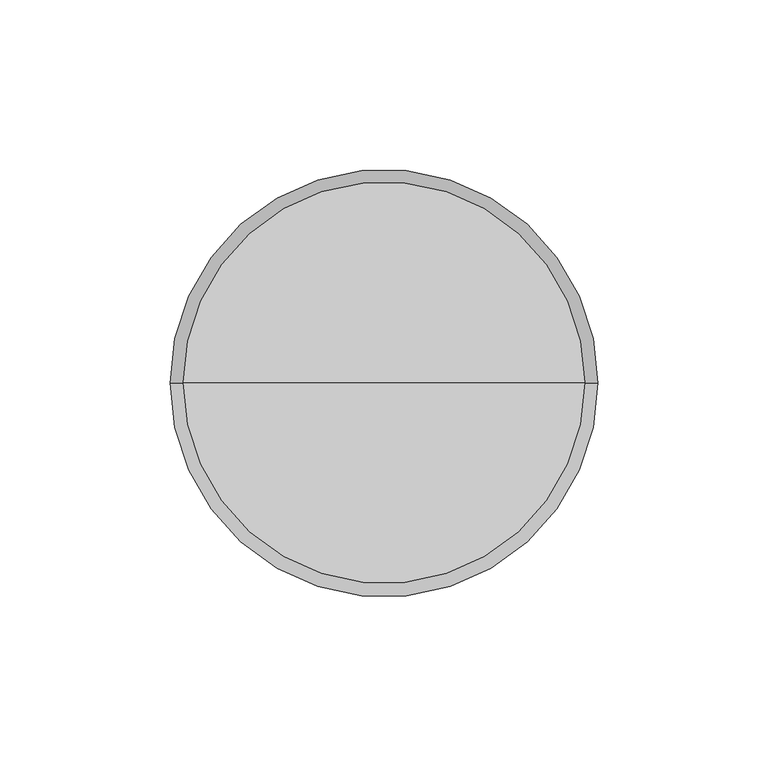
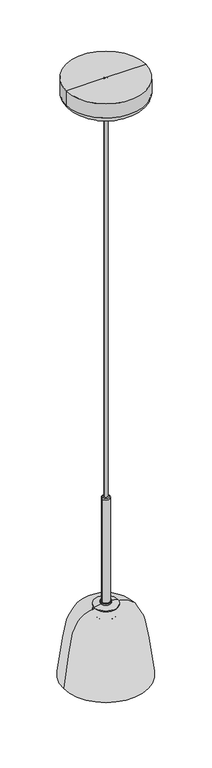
"""IFC4 building model written with IfcOpenShell, lengths in millimetres: light fixture geometry, Nuura - Asteea 1 - Ceiling Based : Nuura - Asteea 1 - Ceiling Based."""

import ifcopenshell
import ifcopenshell.guid

model = None  # the IFC model being written
_history = None  # IfcOwnerHistory: only IFC2X3 demands one
_inside = {}  # id of a spatial element -> (the spatial element, [elements in it])
_under = {}  # id of a project, library or spatial element -> (it, [spatial elements below it])
_declared = {}  # id of a project -> (the project, [libraries it declares])
_typed = {}  # id of a type object -> (the type object, [elements of that type])
_made_of = {}  # id of a material, layer set ... -> (it, [elements and type objects made of it])


def new_model(schema):
    """Start an empty IFC model of exactly this schema.

    Asked for "IFC4X3", IfcOpenShell would pick the latest addendum, in which some entities
    have other attributes; the version numbers below select the first issue.
    IFC2X3 requires an IfcOwnerHistory on every rooted entity: one is made here for all.
    """
    global model, _history
    if schema == "IFC4X3":
        model = ifcopenshell.file(schema_version=(4, 3, 0, 0))
    else:
        model = ifcopenshell.file(schema=schema)
    _inside.clear()
    _under.clear()
    _declared.clear()
    _typed.clear()
    _made_of.clear()
    _history = None
    if model.schema == "IFC2X3":
        org = make("IfcOrganization", Name="unknown")
        user = make(
            "IfcPersonAndOrganization",
            ThePerson=make("IfcPerson", FamilyName="unknown"),
            TheOrganization=org,
        )
        app = make(
            "IfcApplication",
            ApplicationDeveloper=org,
            Version="unknown",
            ApplicationFullName="unknown",
            ApplicationIdentifier="unknown",
        )
        _history = make(
            "IfcOwnerHistory",
            OwningUser=user,
            OwningApplication=app,
            ChangeAction="ADDED",
            CreationDate=0,
        )
    return model


def make(cls, **values):
    """One entity of the class cls with the attributes given. An attribute that is None is left unset."""
    return model.create_entity(
        cls, **{name: value for name, value in values.items() if value is not None}
    )


def rooted(cls, **values):
    """An entity with a GlobalId (a new one), such as an element, a storey or a relation."""
    return make(cls, GlobalId=ifcopenshell.guid.new(), OwnerHistory=_history, **values)


def si_unit(unit_type, name, prefix=None):
    """IfcSIUnit, for example si_unit("LENGTHUNIT", "METRE", prefix="MILLI")."""
    return make("IfcSIUnit", UnitType=unit_type, Prefix=prefix, Name=name)


def assignment(units):
    """IfcUnitAssignment: the units of a project."""
    return None if units is None else make("IfcUnitAssignment", Units=units)


def point(xyz):
    """IfcCartesianPoint."""
    return None if xyz is None else make("IfcCartesianPoint", Coordinates=xyz)


def direction(xyz):
    """IfcDirection."""
    return None if xyz is None else make("IfcDirection", DirectionRatios=xyz)


def frame(location, z_axis=None, x_axis=None):
    """IfcAxis2Placement3D, a coordinate frame: its origin and axes. An axis left out is left unset."""
    return make(
        "IfcAxis2Placement3D",
        Location=point(location),
        Axis=direction(z_axis),
        RefDirection=direction(x_axis),
    )


def frame_2d(location, x_axis=None):
    """IfcAxis2Placement2D, a coordinate frame in the plane: its origin and x axis."""
    return make(
        "IfcAxis2Placement2D", Location=point(location), RefDirection=direction(x_axis)
    )


def origin():
    """The frame at (0, 0, 0) with its axes left unset."""
    return frame((0.0, 0.0, 0.0))


def origin_2d():
    """The frame at (0, 0) in the plane with its x axis left unset."""
    return frame_2d((0.0, 0.0))


def place(relative_to, where):
    """IfcLocalPlacement: puts the frame where relative to a parent placement (None: the world)."""
    return make(
        "IfcLocalPlacement", PlacementRelTo=relative_to, RelativePlacement=where
    )


def context(
    kind, dimensions, precision=None, world=None, true_north=None, identifier=None
):
    """IfcGeometricRepresentationContext, for example the 3D "Model" context."""
    return make(
        "IfcGeometricRepresentationContext",
        ContextIdentifier=identifier,
        ContextType=kind,
        CoordinateSpaceDimension=dimensions,
        Precision=precision,
        WorldCoordinateSystem=world,
        TrueNorth=true_north,
    )


def project(units=None, contexts=None):
    """IfcProject with its units and contexts."""
    return rooted(
        "IfcProject",
        Name="project",
        RepresentationContexts=contexts,
        UnitsInContext=assignment(units),
    )


def spatial(cls, under=None, at=None, **own):
    """A site, building, storey or space (cls), placed at a placement, below another one or the project."""
    s = rooted(cls, ObjectPlacement=at, **own)
    if under is not None:
        _under.setdefault(under.id(), (under, []))[1].append(s)
    return s


def polyline(points):
    """IfcPolyline through the points."""
    return make("IfcPolyline", Points=[point(p) for p in points])


def circle_curve(where, radius):
    """IfcCircle in the frame where."""
    return make("IfcCircle", Position=where, Radius=radius)


def ellipse_curve(where, semi_axis1, semi_axis2):
    """IfcEllipse in the frame where."""
    return make(
        "IfcEllipse", Position=where, SemiAxis1=semi_axis1, SemiAxis2=semi_axis2
    )


def trimmed(basis, trim1, trim2, sense, master):
    """IfcTrimmedCurve: the piece of a basis curve between two trims."""
    return make(
        "IfcTrimmedCurve",
        BasisCurve=basis,
        Trim1=trim1,
        Trim2=trim2,
        SenseAgreement=sense,
        MasterRepresentation=master,
    )


def segment(curve, same_sense, transition):
    """IfcCompositeCurveSegment."""
    return make(
        "IfcCompositeCurveSegment",
        Transition=transition,
        SameSense=same_sense,
        ParentCurve=curve,
    )


def composite_curve(segments, self_intersect=None):
    """IfcCompositeCurve: segments joined end to end."""
    return make("IfcCompositeCurve", Segments=segments, SelfIntersect=self_intersect)


def outline(outer, holes=None, kind="AREA"):
    """IfcArbitraryClosedProfileDef: a profile drawn as a closed curve; with holes, ...WithVoids."""
    if holes is None:
        return make("IfcArbitraryClosedProfileDef", ProfileType=kind, OuterCurve=outer)
    return make(
        "IfcArbitraryProfileDefWithVoids",
        ProfileType=kind,
        OuterCurve=outer,
        InnerCurves=holes,
    )


def extrude(swept, where, along, depth):
    """IfcExtrudedAreaSolid: the profile swept, set in the frame where, extruded along a direction by depth."""
    return make(
        "IfcExtrudedAreaSolid",
        SweptArea=swept,
        Position=where,
        ExtrudedDirection=direction(along),
        Depth=depth,
    )


def shape(context_of_items, identifier, shape_type, items):
    """IfcShapeRepresentation: the items that make up one representation, for example the "Body"."""
    return make(
        "IfcShapeRepresentation",
        ContextOfItems=context_of_items,
        RepresentationIdentifier=identifier,
        RepresentationType=shape_type,
        Items=items,
    )


def source(mapping_origin, context_of_items, identifier, shape_type, items):
    """IfcRepresentationMap: a shape defined once, which mapped items show again and again."""
    return make(
        "IfcRepresentationMap",
        MappingOrigin=mapping_origin,
        MappedRepresentation=shape(context_of_items, identifier, shape_type, items),
    )


def transform(
    local_origin,
    x_axis=None,
    y_axis=None,
    z_axis=None,
    scale=None,
    scale2=None,
    scale3=None,
    uniform=True,
):
    """IfcCartesianTransformationOperator3D, or its non-uniform kind. x_axis, y_axis, z_axis: its Axis1, 2, 3."""
    if uniform:
        return make(
            "IfcCartesianTransformationOperator3D",
            Axis1=direction(x_axis),
            Axis2=direction(y_axis),
            LocalOrigin=point(local_origin),
            Scale=scale,
            Axis3=direction(z_axis),
        )
    return make(
        "IfcCartesianTransformationOperator3DnonUniform",
        Axis1=direction(x_axis),
        Axis2=direction(y_axis),
        LocalOrigin=point(local_origin),
        Scale=scale,
        Axis3=direction(z_axis),
        Scale2=scale2,
        Scale3=scale3,
    )


def mapped(mapping_source, mapping_target):
    """IfcMappedItem: shows the shape of a source again, moved by a transform."""
    return make(
        "IfcMappedItem", MappingSource=mapping_source, MappingTarget=mapping_target
    )


def made_of(thing, what):
    """Note that an element or type object is made of a material, layer set ...; save() writes the relation."""
    if what is not None:
        _made_of.setdefault(what.id(), (what, []))[1].append(thing)
    return thing


def element(
    cls,
    number,
    at=None,
    inside=None,
    cuts=None,
    type_object=None,
    material=None,
    context=None,
    identifier="Body",
    shape_type=None,
    held_by="IfcProductDefinitionShape",
    body=None,
    shapes=None,
    **own,
):
    """One element of the class cls, such as IfcWall. Its Tag is "e" and its number.

    at: its placement. inside: the storey or other place that contains it. cuts: it is an
    opening in that element (IfcRelVoidsElement). A single representation is given by context,
    identifier, shape_type and body (its items); several are given by shapes. held_by: the class
    of the entity that holds the representations. save() writes the other relations.
    """
    e = rooted(cls, Tag="e%d" % number, ObjectPlacement=at, **own)
    if body is not None:
        shapes = [shape(context, identifier, shape_type, body)]
    if shapes is not None:
        e.Representation = make(held_by, Representations=shapes)
    if inside is not None:
        _inside.setdefault(inside.id(), (inside, []))[1].append(e)
    if cuts is not None:
        rooted(
            "IfcRelVoidsElement", RelatingBuildingElement=cuts, RelatedOpeningElement=e
        )
    if type_object is not None:
        _typed.setdefault(type_object.id(), (type_object, []))[1].append(e)
    return made_of(e, material)


def aggregate(whole, parts):
    """IfcRelAggregates: a whole, such as a stair, and the parts it consists of."""
    return rooted("IfcRelAggregates", RelatingObject=whole, RelatedObjects=parts)


def save(model, path):
    """Write the relations noted so far, then the file.

    IfcRelAggregates (storeys below a building ...), IfcRelContainedInSpatialStructure (elements
    in a storey), IfcRelDefinesByType, IfcRelAssociatesMaterial and IfcRelDeclares: one each for
    every whole, place, type object, material and project.
    """
    for whole, parts in _under.values():
        aggregate(whole, parts)
    for where, things in _inside.values():
        rooted(
            "IfcRelContainedInSpatialStructure",
            RelatedElements=things,
            RelatingStructure=where,
        )
    for kind, things in _typed.values():
        rooted("IfcRelDefinesByType", RelatedObjects=things, RelatingType=kind)
    for what, things in _made_of.values():
        rooted("IfcRelAssociatesMaterial", RelatedObjects=things, RelatingMaterial=what)
    for by, libraries in _declared.values():
        rooted("IfcRelDeclares", RelatingContext=by, RelatedDefinitions=libraries)
    model.write(path)


def plane_surface(at):
    """IfcPlane: the flat surface through the origin of the frame at, square to its z axis."""
    return make("IfcPlane", Position=at)


def cylinder_surface(at, radius):
    """IfcCylindricalSurface: all points at the distance radius from the z axis of the frame at."""
    return make("IfcCylindricalSurface", Position=at, Radius=radius)


def revolved_surface(curve, axis_point, axis_direction):
    """IfcSurfaceOfRevolution: the curve turned about the line through axis_point along axis_direction."""
    return make(
        "IfcSurfaceOfRevolution",
        SweptCurve=make("IfcArbitraryOpenProfileDef", ProfileType="CURVE", Curve=curve),
        AxisPosition=make("IfcAxis1Placement", Location=point(axis_point), Axis=direction(axis_direction)),
    )


def spline_curve(degree, points, multiplicities, knots, weights=None):
    """IfcBSplineCurveWithKnots; with weights, IfcRationalBSplineCurveWithKnots."""
    own = dict(
        Degree=degree,
        ControlPointsList=[point(p) for p in points],
        CurveForm="UNSPECIFIED",
        ClosedCurve=False,
        SelfIntersect=False,
        KnotMultiplicities=multiplicities,
        Knots=knots,
        KnotSpec="UNSPECIFIED",
    )
    if weights is None:
        return make("IfcBSplineCurveWithKnots", **own)
    return make("IfcRationalBSplineCurveWithKnots", WeightsData=weights, **own)


def advanced_brep(points, edges, surfaces, faces):
    """IfcAdvancedBrep: a solid bounded by faces that lie on surfaces and meet in shared edges.

    An edge is (start, end): straight between two places in points (the first is 0);
    or (start, end, curve); or (start, end, curve, False) where it runs against its curve.
    A face is (place in surfaces, loops), or (place, loops, False) where it looks against
    its surface's normal. A loop lists edges by number (the first is 1), with a minus sign
    where the edge is run from its end to its start. The first loop is the outer one.
    """
    corners = [point(p) for p in points]
    vertices = [make("IfcVertexPoint", VertexGeometry=c) for c in corners]
    made = []
    for start, end, *more in edges:
        made.append(
            make(
                "IfcEdgeCurve",
                EdgeStart=vertices[start],
                EdgeEnd=vertices[end],
                EdgeGeometry=more[0] if more else make("IfcPolyline", Points=[corners[start], corners[end]]),
                SameSense=more[1] if len(more) > 1 else True,
            )
        )
    hull = []
    for where, loops, *sense in faces:
        bounds = []
        for j, loop in enumerate(loops):
            ring = [make("IfcOrientedEdge", EdgeElement=made[abs(k) - 1], Orientation=k > 0) for k in loop]
            bounds.append(
                make(
                    "IfcFaceOuterBound" if j == 0 else "IfcFaceBound",
                    Bound=make("IfcEdgeLoop", EdgeList=ring),
                    Orientation=True,
                )
            )
        hull.append(make("IfcAdvancedFace", Bounds=bounds, FaceSurface=surfaces[where], SameSense=sense[0] if sense else True))
    return make("IfcAdvancedBrep", Outer=make("IfcClosedShell", CfsFaces=hull))


def light_fixture_2cd5fa0e(model_context):
    return source(origin(), model_context, "Body", "SolidModel", [
        advanced_brep(
        [(5.8953033, 0.0, 1501.5199994), (-5.8953033, 0.0, 1501.5199994), (-5.8953033, 0.0, 1598.073087), (5.8953033, 0.0, 1598.073087), (0.0, 0.0, 1501.5199994), (0.0, 0.0, 1598.073087)],
        [
            (0, 1, circle_curve(frame((0.0, 0.0, 1501.5199994), z_axis=(0.0, 0.0, 1.0), x_axis=(-1.0, 0.0, 0.0)), 5.8953033)),
            (1, 2),
            (2, 3, circle_curve(frame((0.0, 0.0, 1598.073087), z_axis=(0.0, 0.0, -1.0), x_axis=(-1.0, 0.0, 0.0)), 5.8953033)),
            (3, 0),
            (1, 0, circle_curve(frame((0.0, 0.0, 1501.5199994), z_axis=(0.0, 0.0, 1.0), x_axis=(-1.0, 0.0, 0.0)), 5.8953033)),
            (3, 2, circle_curve(frame((0.0, 0.0, 1598.073087), z_axis=(0.0, 0.0, -1.0), x_axis=(-1.0, 0.0, 0.0)), 5.8953033)),
            (4, 1),
            (0, 4),
            (2, 5),
            (5, 3),
        ],
        [
            cylinder_surface(frame((0.0, 0.0, 1615.5132457), z_axis=(0.0, 0.0, -1.0), x_axis=(-1.0, 0.0, 0.0)), 5.8953033),
            plane_surface(frame((0.0, 0.0, 1501.5199994), z_axis=(0.0, 0.0, -1.0), x_axis=(-1.0, 0.0, 0.0))),
            plane_surface(frame((0.0, 0.0, 1598.073087), z_axis=(0.0, 0.0, 1.0), x_axis=(-1.0, 0.0, 0.0))),
        ],
        [
            (0, [[1, 2, 3, 4]]),
            (0, [[5, -4, 6, -2]]),
            (1, [[7, -1, 8]]),
            (1, [[-8, -5, -7]]),
            (2, [[-3, 9, 10]]),
            (2, [[-6, -10, -9]]),
        ],
    ),
        advanced_brep(
        [(4.35, 0.0, 1784.4), (-4.35, 0.0, 1784.4), (0.0, 0.0, 1784.4), (5.85, 0.0, 1782.9), (-5.85, 0.0, 1782.9), (5.85, 0.0, 1622.1166168), (-5.85, 0.0, 1622.1166168), (6.8203882, 0.0, 1622.1166168), (-6.8203882, 0.0, 1622.1166168), (7.3491479, 0.0, 1621.5878572), (-7.3491479, 0.0, 1621.5878572), (7.3491479, 0.0, 1619.5187742), (-7.3491479, 0.0, 1619.5187742), (17.4825438, 0.0, 1617.5964427), (-17.4825438, 0.0, 1617.5964427), (17.2117822, 0.0, 1616.6141243), (-17.2117822, 0.0, 1616.6141243), (0.0, 0.0, 1616.6141243)],
        [
            (0, 1, circle_curve(frame((0.0, 0.0, 1784.4), z_axis=(0.0, 0.0, 1.0), x_axis=(-1.0, 0.0, 0.0)), 4.35)),
            (1, 2),
            (2, 0),
            (1, 0, circle_curve(frame((0.0, 0.0, 1784.4), z_axis=(0.0, 0.0, 1.0), x_axis=(-1.0, 0.0, 0.0)), 4.35)),
            (3, 4, circle_curve(frame((0.0, 0.0, 1782.9), z_axis=(0.0, 0.0, 1.0), x_axis=(-1.0, 0.0, 0.0)), 5.85)),
            (4, 1, circle_curve(frame((-4.35, 0.0, 1782.9), z_axis=(0.0, 1.0, 0.0), x_axis=(1.0, 0.0, 0.0)), 1.5)),
            (0, 3, circle_curve(frame((4.35, 0.0, 1782.9), z_axis=(0.0, 1.0, 0.0), x_axis=(-1.0, 0.0, 0.0)), 1.5)),
            (4, 3, circle_curve(frame((0.0, 0.0, 1782.9), z_axis=(0.0, 0.0, 1.0), x_axis=(-1.0, 0.0, 0.0)), 5.85)),
            (5, 6, circle_curve(frame((0.0, 0.0, 1622.1166168), z_axis=(0.0, 0.0, 1.0), x_axis=(-1.0, 0.0, 0.0)), 5.85)),
            (6, 4),
            (3, 5),
            (6, 5, circle_curve(frame((0.0, 0.0, 1622.1166168), z_axis=(0.0, 0.0, 1.0), x_axis=(-1.0, 0.0, 0.0)), 5.85)),
            (7, 8, circle_curve(frame((0.0, 0.0, 1622.1166168), z_axis=(0.0, 0.0, 1.0), x_axis=(-1.0, 0.0, 0.0)), 6.8203882)),
            (8, 6),
            (5, 7),
            (8, 7, circle_curve(frame((0.0, 0.0, 1622.1166168), z_axis=(0.0, 0.0, 1.0), x_axis=(-1.0, 0.0, 0.0)), 6.8203882)),
            (9, 10, circle_curve(frame((0.0, 0.0, 1621.5878572), z_axis=(0.0, 0.0, 1.0), x_axis=(-1.0, 0.0, 0.0)), 7.3491479)),
            (10, 8, circle_curve(frame((-6.8203882, 0.0, 1621.5878572), z_axis=(0.0, 1.0, 0.0), x_axis=(1.0, 0.0, 0.0)), 0.5287596)),
            (7, 9, circle_curve(frame((6.8203882, 0.0, 1621.5878572), z_axis=(0.0, 1.0, 0.0), x_axis=(-1.0, 0.0, 0.0)), 0.5287596)),
            (10, 9, circle_curve(frame((0.0, 0.0, 1621.5878572), z_axis=(0.0, 0.0, 1.0), x_axis=(-1.0, 0.0, 0.0)), 7.3491479)),
            (11, 12, circle_curve(frame((0.0, 0.0, 1619.5187742), z_axis=(0.0, 0.0, 1.0), x_axis=(-1.0, 0.0, 0.0)), 7.3491479)),
            (12, 10),
            (9, 11),
            (12, 11, circle_curve(frame((0.0, 0.0, 1619.5187742), z_axis=(0.0, 0.0, 1.0), x_axis=(-1.0, 0.0, 0.0)), 7.3491479)),
            (13, 14, circle_curve(frame((0.0, 0.0, 1617.5964427), z_axis=(0.0, 0.0, 1.0), x_axis=(-1.0, 0.0, 0.0)), 17.4825438)),
            (14, 12, circle_curve(frame((-0.6458892, 0.0, 1556.5133503), z_axis=(0.0, 1.0, 0.0), x_axis=(1.0, 0.0, 0.0)), 63.3610063)),
            (11, 13, circle_curve(frame((0.6458892, 0.0, 1556.5133503), z_axis=(0.0, 1.0, 0.0), x_axis=(-1.0, 0.0, 0.0)), 63.3610063)),
            (14, 13, circle_curve(frame((0.0, 0.0, 1617.5964427), z_axis=(0.0, 0.0, 1.0), x_axis=(-1.0, 0.0, 0.0)), 17.4825438)),
            (15, 16, circle_curve(frame((0.0, 0.0, 1616.6141243), z_axis=(0.0, 0.0, 1.0), x_axis=(-1.0, 0.0, 0.0)), 17.2117822)),
            (16, 14),
            (13, 15),
            (16, 15, circle_curve(frame((0.0, 0.0, 1616.6141243), z_axis=(0.0, 0.0, 1.0), x_axis=(-1.0, 0.0, 0.0)), 17.2117822)),
            (17, 16),
            (15, 17),
        ],
        [
            plane_surface(frame((0.0, 0.0, 1784.4), z_axis=(0.0, 0.0, 1.0), x_axis=(-1.0, 0.0, 0.0))),
            revolved_surface(trimmed(ellipse_curve(frame((-4.35, 0.0, 1782.9), z_axis=(0.0, -1.0, 0.0), x_axis=(1.0, 0.0, 0.0)), 1.5, 1.5), [point((-4.35, 0.0, 1784.4))], [point((-5.85, 0.0, 1782.9))], True, "CARTESIAN"), (0.0, 0.0, 1837.4), (0.0, 0.0, -1.0)),
            cylinder_surface(frame((0.0, 0.0, 1837.4), z_axis=(0.0, 0.0, -1.0), x_axis=(-1.0, 0.0, 0.0)), 5.85),
            plane_surface(frame((0.0, 0.0, 1622.1166168), z_axis=(0.0, 0.0, 1.0), x_axis=(-1.0, 0.0, 0.0))),
            revolved_surface(trimmed(ellipse_curve(frame((-6.8203882, 0.0, 1621.5878572), z_axis=(0.0, -1.0, 0.0), x_axis=(1.0, 0.0, 0.0)), 0.5287596, 0.5287596), [point((-6.8203882, 0.0, 1622.1166168))], [point((-7.3491479, 0.0, 1621.5878572))], True, "CARTESIAN"), (0.0, 0.0, 1837.4), (0.0, 0.0, -1.0)),
            cylinder_surface(frame((0.0, 0.0, 1837.4), z_axis=(0.0, 0.0, -1.0), x_axis=(-1.0, 0.0, 0.0)), 7.3491479),
            revolved_surface(trimmed(ellipse_curve(frame((-0.6458892, 0.0, 1556.5133503), z_axis=(0.0, -1.0, 0.0), x_axis=(1.0, 0.0, 0.0)), 63.3610063, 63.3610063), [point((-7.3491479, 0.0, 1619.5187742))], [point((-17.4825438, 0.0, 1617.5964427))], True, "CARTESIAN"), (0.0, 0.0, 1837.4), (0.0, 0.0, -1.0)),
            revolved_surface(polyline([(-17.4825438, 0.0, 1617.5964427), (-17.2117822, 0.0, 1616.6141243)]), (0.0, 0.0, 1837.4), (0.0, 0.0, -1.0)),
            plane_surface(frame((0.0, 0.0, 1616.6141243), z_axis=(0.0, 0.0, -1.0), x_axis=(-1.0, 0.0, 0.0))),
        ],
        [
            (0, [[1, 2, 3]]),
            (0, [[4, -3, -2]]),
            (1, [[5, 6, -1, 7]]),
            (1, [[8, -7, -4, -6]]),
            (2, [[9, 10, -5, 11]]),
            (2, [[12, -11, -8, -10]]),
            (3, [[13, 14, -9, 15]]),
            (3, [[16, -15, -12, -14]]),
            (4, [[17, 18, -13, 19]]),
            (4, [[20, -19, -16, -18]]),
            (5, [[21, 22, -17, 23]]),
            (5, [[24, -23, -20, -22]]),
            (6, [[25, 26, -21, 27]]),
            (6, [[28, -27, -24, -26]]),
            (7, [[29, 30, -25, 31]]),
            (7, [[32, -31, -28, -30]]),
            (8, [[33, -29, 34]]),
            (8, [[-34, -32, -33]]),
        ],
    ),
        advanced_brep(
        [(17.5, 0.0, 1609.073087), (-17.5, 0.0, 1609.073087), (-17.5, 0.0, 1611.5730871), (17.5, 0.0, 1611.5730871), (6.5, 0.0, 1598.073087), (-6.5, 0.0, 1598.073087), (3.9999999, 0.0, 1598.073087), (-3.9999999, 0.0, 1598.073087), (3.9999999, 0.0, 1588.0199994), (-3.9999999, 0.0, 1588.0199994), (-1e-07, 0.0, 1588.0199994), (-1e-07, 0.0, 1611.5730871)],
        [
            (0, 1, circle_curve(frame((0.0, 0.0, 1609.073087), z_axis=(0.0, 0.0, 1.0), x_axis=(-1.0, 0.0, 0.0)), 17.5)),
            (1, 2),
            (2, 3, circle_curve(frame((0.0, 0.0, 1611.5730871), z_axis=(0.0, 0.0, -1.0), x_axis=(-1.0, 0.0, 0.0)), 17.5)),
            (3, 0),
            (1, 0, circle_curve(frame((0.0, 0.0, 1609.073087), z_axis=(0.0, 0.0, 1.0), x_axis=(-1.0, 0.0, 0.0)), 17.5)),
            (3, 2, circle_curve(frame((0.0, 0.0, 1611.5730871), z_axis=(0.0, 0.0, -1.0), x_axis=(-1.0, 0.0, 0.0)), 17.5)),
            (4, 5, circle_curve(frame((0.0, 0.0, 1598.073087), z_axis=(0.0, 0.0, 1.0), x_axis=(-1.0, 0.0, 0.0)), 6.5)),
            (5, 1, circle_curve(frame((-6.5, 0.0, 1609.073087), z_axis=(0.0, 1.0, 0.0), x_axis=(1.0, 0.0, 0.0)), 11.0)),
            (0, 4, circle_curve(frame((6.5, 0.0, 1609.073087), z_axis=(0.0, 1.0, 0.0), x_axis=(-1.0, 0.0, 0.0)), 11.0)),
            (5, 4, circle_curve(frame((0.0, 0.0, 1598.073087), z_axis=(0.0, 0.0, 1.0), x_axis=(-1.0, 0.0, 0.0)), 6.5)),
            (6, 7, circle_curve(frame((0.0, 0.0, 1598.073087), z_axis=(0.0, 0.0, 1.0), x_axis=(-1.0, 0.0, 0.0)), 3.9999999)),
            (7, 5),
            (4, 6),
            (7, 6, circle_curve(frame((0.0, 0.0, 1598.073087), z_axis=(0.0, 0.0, 1.0), x_axis=(-1.0, 0.0, 0.0)), 3.9999999)),
            (8, 9, circle_curve(frame((0.0, 0.0, 1588.0199994), z_axis=(0.0, 0.0, 1.0), x_axis=(-1.0, 0.0, 0.0)), 3.9999999)),
            (9, 7),
            (6, 8),
            (9, 8, circle_curve(frame((0.0, 0.0, 1588.0199994), z_axis=(0.0, 0.0, 1.0), x_axis=(-1.0, 0.0, 0.0)), 3.9999999)),
            (10, 9),
            (8, 10),
            (2, 11),
            (11, 3),
        ],
        [
            cylinder_surface(frame((0.0, 0.0, 1837.4), z_axis=(0.0, 0.0, -1.0), x_axis=(-1.0, 0.0, 0.0)), 17.5),
            revolved_surface(trimmed(ellipse_curve(frame((-6.5, 0.0, 1609.073087), z_axis=(0.0, -1.0, 0.0), x_axis=(1.0, 0.0, 0.0)), 11.0, 11.0), [point((-17.5, 0.0, 1609.073087))], [point((-6.5, 0.0, 1598.073087))], True, "CARTESIAN"), (0.0, 0.0, 1837.4), (0.0, 0.0, -1.0)),
            plane_surface(frame((0.0, 0.0, 1598.073087), z_axis=(0.0, 0.0, -1.0), x_axis=(-1.0, 0.0, 0.0))),
            cylinder_surface(frame((0.0, 0.0, 1837.4), z_axis=(0.0, 0.0, -1.0), x_axis=(-1.0, 0.0, 0.0)), 3.9999999),
            plane_surface(frame((0.0, 0.0, 1588.0199994), z_axis=(0.0, 0.0, -1.0), x_axis=(-1.0, 0.0, 0.0))),
            plane_surface(frame((0.0, 0.0, 1611.5730871), z_axis=(0.0, 0.0, 1.0), x_axis=(-1.0, 0.0, 0.0))),
        ],
        [
            (0, [[1, 2, 3, 4]]),
            (0, [[5, -4, 6, -2]]),
            (1, [[7, 8, -1, 9]]),
            (1, [[10, -9, -5, -8]]),
            (2, [[11, 12, -7, 13]]),
            (2, [[14, -13, -10, -12]]),
            (3, [[15, 16, -11, 17]]),
            (3, [[18, -17, -14, -16]]),
            (4, [[19, -15, 20]]),
            (4, [[-20, -18, -19]]),
            (5, [[-3, 21, 22]]),
            (5, [[-6, -22, -21]]),
        ],
    ),
        advanced_brep(
        [(2.8650938, 0.0, 1517.4873599), (-2.8650938, 0.0, 1517.4873599), (0.0, 0.0, 1517.4873599), (4.8499999, 0.0, 1516.5199994), (-4.8499999, 0.0, 1516.5199994), (4.8499999, 0.0, 1511.5199994), (-4.8499999, 0.0, 1511.5199994), (4.8499999, 0.0, 1501.5199994), (-4.8499999, 0.0, 1501.5199994), (22.4999999, 0.0, 1501.5199994), (-22.4999999, 0.0, 1501.5199994), (22.4999999, 0.0, 1498.4089388), (-22.4999999, 0.0, 1498.4089388), (22.1540938, 0.0, 1496.5815336), (-22.1540938, 0.0, 1496.5815336), (0.0, 0.0, 1481.4795687)],
        [
            (0, 1, circle_curve(frame((0.0, 0.0, 1517.4873599), z_axis=(0.0, 0.0, 1.0), x_axis=(-1.0, 0.0, 0.0)), 2.8650938)),
            (1, 2),
            (2, 0),
            (1, 0, circle_curve(frame((0.0, 0.0, 1517.4873599), z_axis=(0.0, 0.0, 1.0), x_axis=(-1.0, 0.0, 0.0)), 2.8650938)),
            (3, 4, circle_curve(frame((0.0, 0.0, 1516.5199994), z_axis=(0.0, 0.0, 1.0), x_axis=(-1.0, 0.0, 0.0)), 4.8499999)),
            (4, 1),
            (0, 3),
            (4, 3, circle_curve(frame((0.0, 0.0, 1516.5199994), z_axis=(0.0, 0.0, 1.0), x_axis=(-1.0, 0.0, 0.0)), 4.8499999)),
            (5, 6, circle_curve(frame((0.0, 0.0, 1511.5199994), z_axis=(0.0, 0.0, 1.0), x_axis=(-1.0, 0.0, 0.0)), 4.8499999)),
            (6, 4),
            (3, 5),
            (6, 5, circle_curve(frame((0.0, 0.0, 1511.5199994), z_axis=(0.0, 0.0, 1.0), x_axis=(-1.0, 0.0, 0.0)), 4.8499999)),
            (7, 8, circle_curve(frame((0.0, 0.0, 1501.5199994), z_axis=(0.0, 0.0, 1.0), x_axis=(-1.0, 0.0, 0.0)), 4.8499999)),
            (8, 6),
            (5, 7),
            (8, 7, circle_curve(frame((0.0, 0.0, 1501.5199994), z_axis=(0.0, 0.0, 1.0), x_axis=(-1.0, 0.0, 0.0)), 4.8499999)),
            (9, 10, circle_curve(frame((0.0, 0.0, 1501.5199994), z_axis=(0.0, 0.0, 1.0), x_axis=(-1.0, 0.0, 0.0)), 22.4999999)),
            (10, 8),
            (7, 9),
            (10, 9, circle_curve(frame((0.0, 0.0, 1501.5199994), z_axis=(0.0, 0.0, 1.0), x_axis=(-1.0, 0.0, 0.0)), 22.4999999)),
            (11, 12, circle_curve(frame((0.0, 0.0, 1498.4089388), z_axis=(0.0, 0.0, 1.0), x_axis=(-1.0, 0.0, 0.0)), 22.4999999)),
            (12, 10),
            (9, 11),
            (12, 11, circle_curve(frame((0.0, 0.0, 1498.4089388), z_axis=(0.0, 0.0, 1.0), x_axis=(-1.0, 0.0, 0.0)), 22.4999999)),
            (13, 14, circle_curve(frame((0.0, 0.0, 1496.5815336), z_axis=(0.0, 0.0, 1.0), x_axis=(-1.0, 0.0, 0.0)), 22.1540938)),
            (14, 12, circle_curve(frame((-17.4999999, 0.0, 1498.4089388), z_axis=(0.0, 1.0, 0.0), x_axis=(1.0, 0.0, 0.0)), 5.0)),
            (11, 13, circle_curve(frame((17.4999999, 0.0, 1498.4089388), z_axis=(0.0, 1.0, 0.0), x_axis=(-1.0, 0.0, 0.0)), 5.0)),
            (14, 13, circle_curve(frame((0.0, 0.0, 1496.5815336), z_axis=(0.0, 0.0, 1.0), x_axis=(-1.0, 0.0, 0.0)), 22.1540938)),
            (15, 14, circle_curve(frame((1e-07, 0.0, 1505.2802207), z_axis=(0.0, 1.0, 0.0), x_axis=(1.0, 0.0, 0.0)), 23.800652)),
            (13, 15, circle_curve(frame((-1e-07, 0.0, 1505.2802207), z_axis=(0.0, 1.0, 0.0), x_axis=(-1.0, 0.0, 0.0)), 23.800652)),
        ],
        [
            plane_surface(frame((0.0, 0.0, 1517.4873599), z_axis=(0.0, 0.0, 1.0), x_axis=(-1.0, 0.0, 0.0))),
            revolved_surface(polyline([(-2.8650938, 0.0, 1517.4873599), (-4.8499999, 0.0, 1516.5199994)]), (0.0, 0.0, 1837.4), (0.0, 0.0, -1.0)),
            cylinder_surface(frame((0.0, 0.0, 1837.4), z_axis=(0.0, 0.0, -1.0), x_axis=(-1.0, 0.0, 0.0)), 4.8499999),
            plane_surface(frame((0.0, 0.0, 1501.5199994), z_axis=(0.0, 0.0, 1.0), x_axis=(-1.0, 0.0, 0.0))),
            cylinder_surface(frame((0.0, 0.0, 1837.4), z_axis=(0.0, 0.0, -1.0), x_axis=(-1.0, 0.0, 0.0)), 22.4999999),
            revolved_surface(trimmed(ellipse_curve(frame((-17.4999999, 0.0, 1498.4089388), z_axis=(0.0, -1.0, 0.0), x_axis=(1.0, 0.0, 0.0)), 5.0, 5.0), [point((-22.4999999, 0.0, 1498.4089388))], [point((-22.1540938, 0.0, 1496.5815336))], True, "CARTESIAN"), (0.0, 0.0, 1837.4), (0.0, 0.0, -1.0)),
            revolved_surface(trimmed(ellipse_curve(frame((1e-07, 0.0, 1505.2802207), z_axis=(0.0, -1.0, 0.0), x_axis=(1.0, 0.0, 0.0)), 23.800652, 23.800652), [point((-22.1540938, 0.0, 1496.5815336))], [point((0.0, 0.0, 1481.4795687))], True, "CARTESIAN"), (0.0, 0.0, 1837.4), (0.0, 0.0, -1.0)),
        ],
        [
            (0, [[1, 2, 3]]),
            (0, [[4, -3, -2]]),
            (1, [[5, 6, -1, 7]]),
            (1, [[8, -7, -4, -6]]),
            (2, [[9, 10, -5, 11]]),
            (2, [[12, -11, -8, -10]]),
            (2, [[13, 14, -9, 15]]),
            (2, [[16, -15, -12, -14]]),
            (3, [[17, 18, -13, 19]]),
            (3, [[20, -19, -16, -18]]),
            (4, [[21, 22, -17, 23]]),
            (4, [[24, -23, -20, -22]]),
            (5, [[25, 26, -21, 27]]),
            (5, [[28, -27, -24, -26]]),
            (6, [[29, -25, 30]]),
            (6, [[-30, -28, -29]]),
        ],
    ),
        advanced_brep(
        [(7.0, 0.0, 2408.4), (-7.0, 0.0, 2408.4), (-51.0, 0.0, 2408.4), (51.0, 0.0, 2408.4), (7.0, 0.0, 2401.4), (-7.0, 0.0, 2401.4), (6.0, 0.0, 2400.4), (-6.0, 0.0, 2400.4), (0.0, 0.0, 2400.4), (59.0, 0.0, 2438.4), (-59.0, 0.0, 2438.4), (0.0, 0.0, 2438.4), (59.0, 0.0, 2416.4), (-59.0, 0.0, 2416.4)],
        [
            (0, 1, circle_curve(frame((0.0, 0.0, 2408.4), z_axis=(0.0, 0.0, 1.0), x_axis=(-1.0, 0.0, 0.0)), 7.0)),
            (1, 2),
            (2, 3, circle_curve(frame((0.0, 0.0, 2408.4), z_axis=(0.0, 0.0, -1.0), x_axis=(-1.0, 0.0, 0.0)), 51.0)),
            (3, 0),
            (1, 0, circle_curve(frame((0.0, 0.0, 2408.4), z_axis=(0.0, 0.0, 1.0), x_axis=(-1.0, 0.0, 0.0)), 7.0)),
            (3, 2, circle_curve(frame((0.0, 0.0, 2408.4), z_axis=(0.0, 0.0, -1.0), x_axis=(-1.0, 0.0, 0.0)), 51.0)),
            (4, 5, circle_curve(frame((0.0, 0.0, 2401.4), z_axis=(0.0, 0.0, 1.0), x_axis=(-1.0, 0.0, 0.0)), 7.0)),
            (5, 1),
            (0, 4),
            (5, 4, circle_curve(frame((0.0, 0.0, 2401.4), z_axis=(0.0, 0.0, 1.0), x_axis=(-1.0, 0.0, 0.0)), 7.0)),
            (6, 7, circle_curve(frame((0.0, 0.0, 2400.4), z_axis=(0.0, 0.0, 1.0), x_axis=(-1.0, 0.0, 0.0)), 6.0)),
            (7, 5, circle_curve(frame((-6.0, 0.0, 2401.4), z_axis=(0.0, 1.0, 0.0), x_axis=(1.0, 0.0, 0.0)), 1.0)),
            (4, 6, circle_curve(frame((6.0, 0.0, 2401.4), z_axis=(0.0, 1.0, 0.0), x_axis=(-1.0, 0.0, 0.0)), 1.0)),
            (7, 6, circle_curve(frame((0.0, 0.0, 2400.4), z_axis=(0.0, 0.0, 1.0), x_axis=(-1.0, 0.0, 0.0)), 6.0)),
            (8, 7),
            (6, 8),
            (9, 10, circle_curve(frame((0.0, 0.0, 2438.4), z_axis=(0.0, 0.0, 1.0), x_axis=(-1.0, 0.0, 0.0)), 59.0)),
            (10, 11),
            (11, 9),
            (10, 9, circle_curve(frame((0.0, 0.0, 2438.4), z_axis=(0.0, 0.0, 1.0), x_axis=(-1.0, 0.0, 0.0)), 59.0)),
            (12, 13, circle_curve(frame((0.0, 0.0, 2416.4), z_axis=(0.0, 0.0, 1.0), x_axis=(-1.0, 0.0, 0.0)), 59.0)),
            (13, 10),
            (9, 12),
            (13, 12, circle_curve(frame((0.0, 0.0, 2416.4), z_axis=(0.0, 0.0, 1.0), x_axis=(-1.0, 0.0, 0.0)), 59.0)),
            (2, 13, circle_curve(frame((-51.0, 0.0, 2416.4), z_axis=(0.0, 1.0, 0.0), x_axis=(1.0, 0.0, 0.0)), 8.0)),
            (12, 3, circle_curve(frame((51.0, 0.0, 2416.4), z_axis=(0.0, 1.0, 0.0), x_axis=(-1.0, 0.0, 0.0)), 8.0)),
        ],
        [
            plane_surface(frame((0.0, 0.0, 2408.4), z_axis=(0.0, 0.0, -1.0), x_axis=(-1.0, 0.0, 0.0))),
            cylinder_surface(frame((0.0, 0.0, 2449.5281977), z_axis=(0.0, 0.0, -1.0), x_axis=(-1.0, 0.0, 0.0)), 7.0),
            revolved_surface(trimmed(ellipse_curve(frame((-6.0, 0.0, 2401.4), z_axis=(0.0, -1.0, 0.0), x_axis=(1.0, 0.0, 0.0)), 1.0, 1.0), [point((-7.0, 0.0, 2401.4))], [point((-6.0, 0.0, 2400.4))], True, "CARTESIAN"), (0.0, 0.0, 2449.5281977), (0.0, 0.0, -1.0)),
            plane_surface(frame((0.0, 0.0, 2400.4), z_axis=(0.0, 0.0, -1.0), x_axis=(-1.0, 0.0, 0.0))),
            plane_surface(frame((0.0, 0.0, 2438.4), z_axis=(0.0, 0.0, 1.0), x_axis=(-1.0, 0.0, 0.0))),
            cylinder_surface(frame((0.0, 0.0, 2449.5281977), z_axis=(0.0, 0.0, -1.0), x_axis=(-1.0, 0.0, 0.0)), 59.0),
            revolved_surface(trimmed(ellipse_curve(frame((-51.0, 0.0, 2416.4), z_axis=(0.0, -1.0, 0.0), x_axis=(1.0, 0.0, 0.0)), 8.0, 8.0), [point((-59.0, 0.0, 2416.4))], [point((-51.0, 0.0, 2408.4))], True, "CARTESIAN"), (0.0, 0.0, 2449.5281977), (0.0, 0.0, -1.0)),
        ],
        [
            (0, [[1, 2, 3, 4]]),
            (0, [[5, -4, 6, -2]]),
            (1, [[7, 8, -1, 9]]),
            (1, [[10, -9, -5, -8]]),
            (2, [[11, 12, -7, 13]]),
            (2, [[14, -13, -10, -12]]),
            (3, [[15, -11, 16]]),
            (3, [[-16, -14, -15]]),
            (4, [[17, 18, 19]]),
            (4, [[20, -19, -18]]),
            (5, [[21, 22, -17, 23]]),
            (5, [[24, -23, -20, -22]]),
            (6, [[-3, 25, -21, 26]]),
            (6, [[-6, -26, -24, -25]]),
        ],
    ),
        advanced_brep(
        [(60.3094195, 0.0, 1506.6642416), (-60.3094195, 0.0, 1506.6642416), (-62.8346577, 0.0, 1506.6642416), (62.8346577, 0.0, 1506.6642416), (0.0, 0.0, 1616.6141243), (0.0, 0.0, 1614.1141243)],
        [
            (0, 1, circle_curve(frame((0.0, 0.0, 1506.6642416), z_axis=(0.0, 0.0, 1.0), x_axis=(-1.0, 0.0, 0.0)), 60.3094195)),
            (1, 2),
            (2, 3, circle_curve(frame((0.0, 0.0, 1506.6642416), z_axis=(0.0, 0.0, -1.0), x_axis=(-1.0, 0.0, 0.0)), 62.8346577)),
            (3, 0),
            (1, 0, circle_curve(frame((0.0, 0.0, 1506.6642416), z_axis=(0.0, 0.0, 1.0), x_axis=(-1.0, 0.0, 0.0)), 60.3094195)),
            (3, 2, circle_curve(frame((0.0, 0.0, 1506.6642416), z_axis=(0.0, 0.0, -1.0), x_axis=(-1.0, 0.0, 0.0)), 62.8346577)),
            (2, 4, spline_curve(3, [(-62.8346577, 0.0, 1506.6642416), (-52.865659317, 0.0, 1576.645898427), (-53.062016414, 0.0, 1591.047849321), (-36.007269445, 0.0, 1611.03027259), (-24.976463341, 0.0, 1617.923085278), (0.0, 0.0, 1616.6141243)], [4, 2, 4], [0.0, 0.13955105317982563, 0.22914869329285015])),
            (4, 3, spline_curve(3, [(0.0, 0.0, 1616.6141243), (24.976463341, 0.0, 1617.923085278), (36.007269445, 0.0, 1611.03027259), (53.062016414, 0.0, 1591.047849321), (52.865659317, 0.0, 1576.645898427), (62.8346577, 0.0, 1506.6642416)], [4, 2, 4], [0.0, 0.08959764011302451, 0.22914869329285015])),
            (5, 1, spline_curve(3, [(0.0, 0.0, 1614.1141243), (-24.311092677, 0.0, 1615.199932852), (-34.991874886, 0.0, 1608.410533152), (-51.435343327, 0.0, 1588.840099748), (-51.136024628, 0.0, 1574.828965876), (-60.3094195, 0.0, 1506.6642416)], [4, 2, 4], [0.0, 0.08959764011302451, 0.22914869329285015])),
            (0, 5, spline_curve(3, [(60.3094195, 0.0, 1506.6642416), (51.136024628, 0.0, 1574.828965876), (51.435343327, 0.0, 1588.840099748), (34.991874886, 0.0, 1608.410533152), (24.311092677, 0.0, 1615.199932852), (0.0, 0.0, 1614.1141243)], [4, 2, 4], [0.0, 0.13955105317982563, 0.22914869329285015])),
        ],
        [
            plane_surface(frame((0.0, 0.0, 1506.6642416), z_axis=(0.0, 0.0, -1.0), x_axis=(-1.0, 0.0, 0.0))),
            revolved_surface(spline_curve(3, [(0.0, 0.0, 1616.6141243), (-24.976463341, 0.0, 1617.923085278), (-36.007269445, 0.0, 1611.03027259), (-53.062016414, 0.0, 1591.047849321), (-52.865659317, 0.0, 1576.645898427), (-62.8346577, 0.0, 1506.6642416)], [4, 2, 4], [0.0, 0.08959764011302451, 0.22914869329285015]), (0.0, 0.0, 1774.7574384), (0.0, 0.0, -1.0)),
            revolved_surface(spline_curve(3, [(-60.3094195, 0.0, 1506.6642416), (-51.136024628, 0.0, 1574.828965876), (-51.435343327, 0.0, 1588.840099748), (-34.991874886, 0.0, 1608.410533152), (-24.311092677, 0.0, 1615.199932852), (0.0, 0.0, 1614.1141243)], [4, 2, 4], [0.0, 0.13955105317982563, 0.22914869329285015]), (0.0, 0.0, 1774.7574384), (0.0, 0.0, -1.0)),
        ],
        [
            (0, [[1, 2, 3, 4]]),
            (0, [[5, -4, 6, -2]]),
            (1, [[-3, 7, 8]]),
            (1, [[-6, -8, -7]]),
            (2, [[9, -1, 10]]),
            (2, [[-10, -5, -9]]),
        ],
    ),
        advanced_brep(
        [(2.8650938, 0.0, 1517.4873599), (-2.8650938, 0.0, 1517.4873599), (-2.8650938, 0.0, 1588.0199994), (2.8650938, 0.0, 1588.0199994), (0.0, 0.0, 1517.4873599), (0.0, 0.0, 1588.0199994)],
        [
            (0, 1, circle_curve(frame((0.0, 0.0, 1517.4873599), z_axis=(0.0, 0.0, 1.0), x_axis=(-1.0, 0.0, 0.0)), 2.8650938)),
            (1, 2),
            (2, 3, circle_curve(frame((0.0, 0.0, 1588.0199994), z_axis=(0.0, 0.0, -1.0), x_axis=(-1.0, 0.0, 0.0)), 2.8650938)),
            (3, 0),
            (1, 0, circle_curve(frame((0.0, 0.0, 1517.4873599), z_axis=(0.0, 0.0, 1.0), x_axis=(-1.0, 0.0, 0.0)), 2.8650938)),
            (3, 2, circle_curve(frame((0.0, 0.0, 1588.0199994), z_axis=(0.0, 0.0, -1.0), x_axis=(-1.0, 0.0, 0.0)), 2.8650938)),
            (4, 1),
            (0, 4),
            (2, 5),
            (5, 3),
        ],
        [
            cylinder_surface(frame((0.0, 0.0, 1615.5132457), z_axis=(0.0, 0.0, -1.0), x_axis=(-1.0, 0.0, 0.0)), 2.8650938),
            plane_surface(frame((0.0, 0.0, 1517.4873599), z_axis=(0.0, 0.0, -1.0), x_axis=(-1.0, 0.0, 0.0))),
            plane_surface(frame((0.0, 0.0, 1588.0199994), z_axis=(0.0, 0.0, 1.0), x_axis=(-1.0, 0.0, 0.0))),
        ],
        [
            (0, [[1, 2, 3, 4]]),
            (0, [[5, -4, 6, -2]]),
            (1, [[7, -1, 8]]),
            (1, [[-8, -5, -7]]),
            (2, [[-3, 9, 10]]),
            (2, [[-6, -10, -9]]),
        ],
    ),
        extrude(outline(composite_curve([segment(trimmed(circle_curve(origin_2d(), 2.5158725), [point((-2.5158725, 0.0))], [point((2.5158725, 0.0))], False, "CARTESIAN"), True, "CONTINUOUS"), segment(trimmed(circle_curve(origin_2d(), 2.5158725), [point((2.5158725, 0.0))], [point((-2.5158725, 0.0))], False, "CARTESIAN"), True, "CONTINUOUS")], self_intersect=False)), frame((0.0, 0.0, 1784.4), z_axis=(0.0, 0.0, 1.0), x_axis=(1.0, 0.0, 0.0)), (0.0, 0.0, 1.0), 654.0),
    ])


if __name__ == "__main__":
    model = new_model("IFC4")
    model_context = context("Model", 3, world=origin())
    ifc_project = project(units=[si_unit("LENGTHUNIT", "METRE", prefix="MILLI")], contexts=[model_context])
    site = spatial("IfcSite", under=ifc_project)
    building = spatial("IfcBuilding", under=site)
    placement = place(None, origin())
    light_fixture_shape = light_fixture_2cd5fa0e(model_context)
    element("IfcLightFixture", 1, ObjectType="Nuura - Asteea 1 - Ceiling Based : Nuura - Asteea 1 - Ceiling Based", at=placement, inside=building, context=model_context, shape_type="MappedRepresentation", body=[
        mapped(light_fixture_shape, transform((0.0, 0.0, 0.0), x_axis=(1.0, 0.0, 0.0), y_axis=(0.0, 1.0, 0.0), z_axis=(0.0, 0.0, 1.0))),
    ])
    save(model, "model.ifc")
